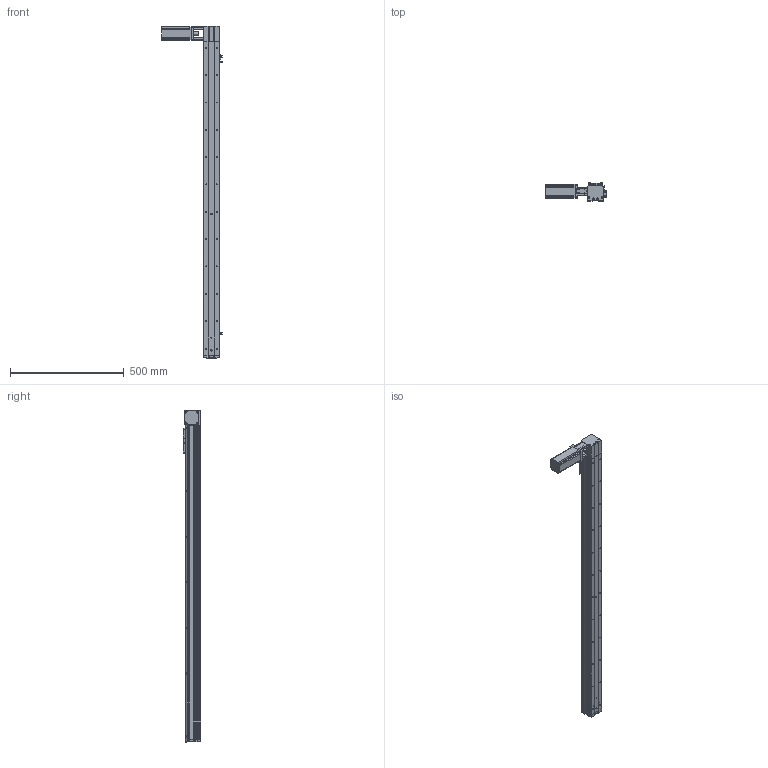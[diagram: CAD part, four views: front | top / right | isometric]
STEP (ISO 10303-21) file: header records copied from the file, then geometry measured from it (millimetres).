
FILE_DESCRIPTION (( 'STEP AP214' ), '1' );
FILE_NAME ('KSD68BS-S1200-MLT-CR.STEP', '2019-08-28T03:42:35', ( '微软用户' ), ( '微软中国' ), 'SwSTEP 2.0', 'SolidWorks 2014', '' );
FILE_SCHEMA (( 'AUTOMOTIVE_DESIGN' ));
Length unit declared in the file: millimetre
Products named in the file (13): KSD68BS-S1200-MLT-CR; 100遵鎮湛假蚾啣1; KSD68BS 1200行程盖板全封闭; 68遵裔啣揤啣1; 68宽单导轨全封闭丝杆传动安装板1防护罩; KSD68BS 1200行程侧板全封闭; 68宽单导轨全封闭同步带端板; 68单导轨全封闭同步带电机座右; 68单导轨全封闭同步带安装板; 感应片68宽全封闭; U倰嫖萇EEㄜSX672; 台达ECMA－C20604AS伺服电机（400W); KSD68BS 1200行程底板全封闭
Assembly tree (16 placements, depth 2):
  KSD68BS-S1200-MLT-CR
    KSD68BS 1200行程底板全封闭
    台达ECMA－C20604AS伺服电机（400W)
    U倰嫖萇EEㄜSX672  x3
    感应片68宽全封闭
    68单导轨全封闭同步带安装板
    68单导轨全封闭同步带电机座右
    68宽单导轨全封闭同步带端板
    KSD68BS 1200行程侧板全封闭  x2
    68宽单导轨全封闭丝杆传动安装板1防护罩
    68遵裔啣揤啣1  x2
    KSD68BS 1200行程盖板全封闭
    100遵鎮湛假蚾啣1
Bounding box: 266.4 x 77 x 1458.1 mm (x, y, z)
Volume: 2757627.4 mm3; surface area: 1059322.8 mm2
Topology: 17 solids, 17 shells, 1456 faces, 4164 edges, 2649 vertices
Faces by surface type: cylinder 676, plane 604, cone 176
Entity records: 46053 total; most frequent: CARTESIAN_POINT 8005, DIRECTION 6824, ORIENTED_EDGE 6556, EDGE_CURVE 3278, AXIS2_PLACEMENT_3D 2458, VERTEX_POINT 2147, LINE 1908, VECTOR 1908
